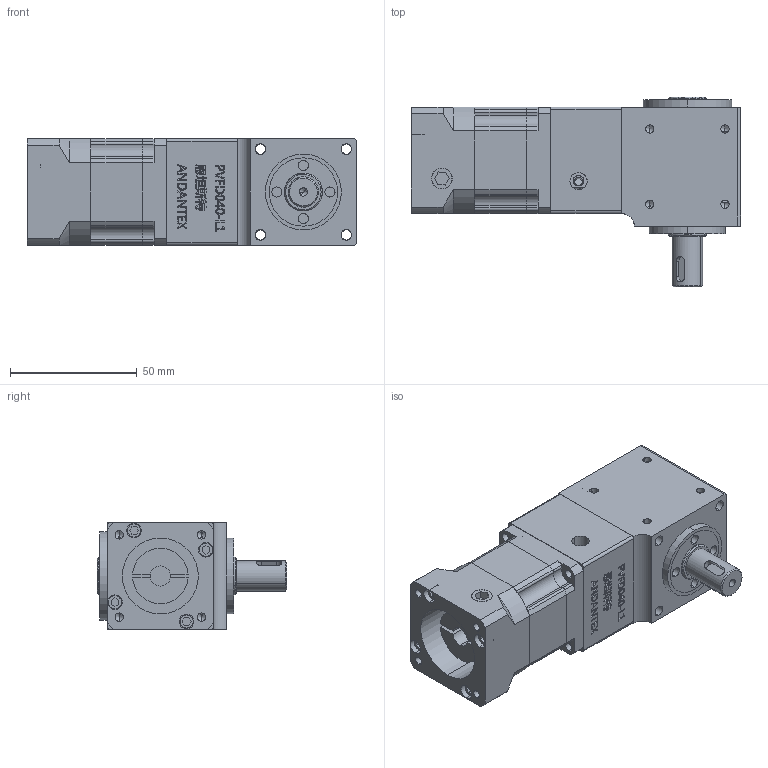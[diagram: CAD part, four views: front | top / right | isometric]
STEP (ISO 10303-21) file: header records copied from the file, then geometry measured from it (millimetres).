
FILE_DESCRIPTION (( 'STEP AP203' ), '1' );
FILE_NAME ('PVFD040-10-20-50.STEP', '2023-02-16T08:33:57', ( '' ), ( '' ), 'SwSTEP 2.0', 'SolidWorks 2021', '' );
FILE_SCHEMA (( 'CONFIG_CONTROL_DESIGN' ));
Length unit declared in the file: millimetre
Products named in the file (13): PVFD040-L183045.STEP; ______________.STEP; PLFS40-8-T输出8轴（8-25 30-3 4-4.5-46）(1); ______.STEP; ____.STEP; ____________100W__.STEP; deep groove ball bearings gb_Rolling bearings 6001 GB 276-94.STEP; deep groove ball bearings gb_Rolling bearings 6002 GB 276-94.STEP; PVFD040-10-20-50; deep groove ball bearings gb_Rolling bearings 61902 GB 276-94.STEP; ______1__.STEP; ____-0.STEP; ______2__.STEP
Assembly tree (12 placements, depth 3):
  PVFD040-10-20-50
    PLFS40-8-T输出8轴（8-25 30-3 4-4.5-46）(1)
    PVFD040-L183045.STEP
      ____.STEP
      ______________.STEP
      ______.STEP
      ____-0.STEP
      ______2__.STEP
      ______1__.STEP
      ____________100W__.STEP
      deep groove ball bearings gb_Rolling bearings 6001 GB 276-94.STEP
      deep groove ball bearings gb_Rolling bearings 6002 GB 276-94.STEP
      deep groove ball bearings gb_Rolling bearings 61902 GB 276-94.STEP
Bounding box: 130 x 75 x 42 mm (x, y, z)
Volume: 186739.8 mm3; surface area: 83643.1 mm2
Topology: 29 solids, 29 shells, 1656 faces, 5112 edges, 3345 vertices
Faces by surface type: plane 688, cylinder 401, torus 243, bspline 144, sphere 98, cone 82
Entity records: 65068 total; most frequent: CARTESIAN_POINT 21292, ORIENTED_EDGE 9536, DIRECTION 8072, EDGE_CURVE 4768, VERTEX_POINT 3149, AXIS2_PLACEMENT_3D 3038, LINE 1996, VECTOR 1996
